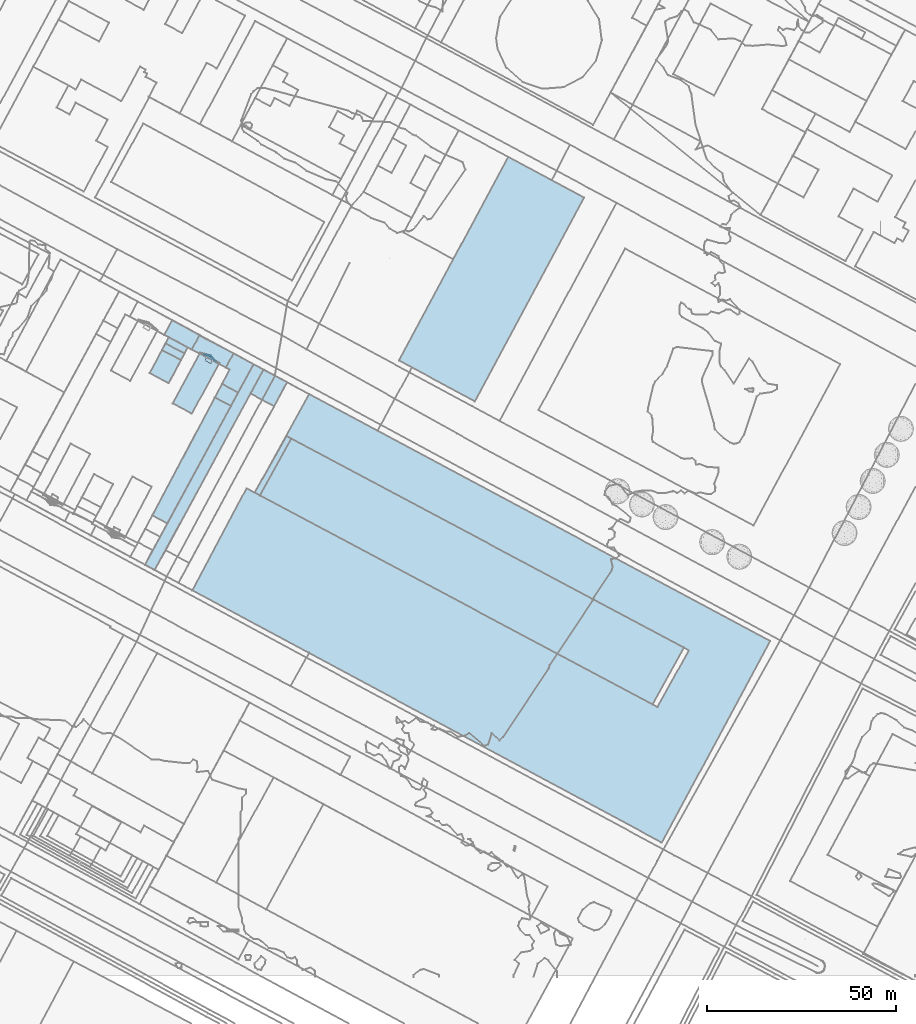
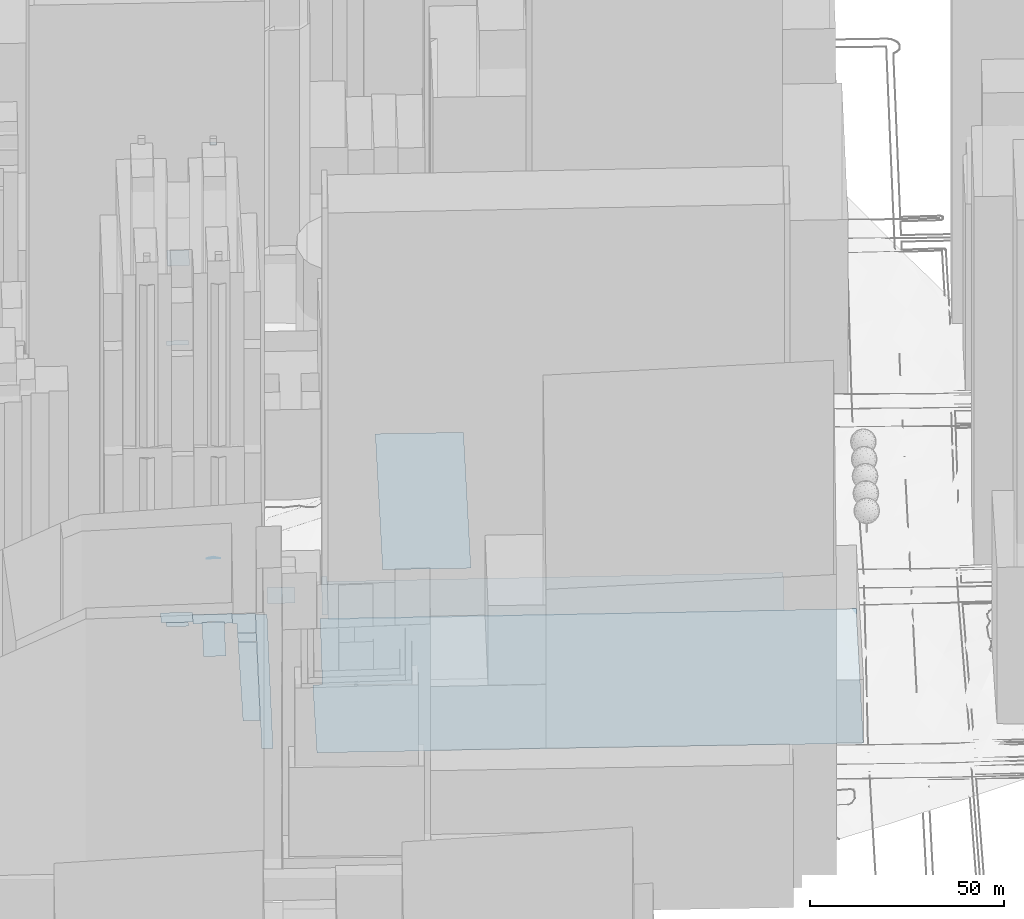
# Not in any storey, part 5 of 80: 17 footings.
"""IFC4 building model written with IfcOpenShell, lengths in metres."""

from ifc_helpers import new_model, si_unit, frame, origin_with_axes, place, context, subcontext, project, spatial, polygons, element, save


model = new_model("IFC4")

# Units and contexts
model_context = context("Model", 3, precision=1e-05, world=origin_with_axes())
body_context = subcontext(model_context, "Body", "Model", "MODEL_VIEW")
ifc_project = project(units=[si_unit("AREAUNIT", "SQUARE_METRE"), si_unit("LENGTHUNIT", "METRE")], contexts=[model_context])

# Sites, building
site_1_placement = place(None, origin_with_axes())
site_1 = spatial("IfcSite", under=ifc_project, at=site_1_placement, Name="Topoexport Site")
site_2_placement = place(site_1_placement, origin_with_axes())
site_2 = spatial("IfcSite", under=site_1, at=site_2_placement, Name="TPX_BATIMENTS")
building_1_placement = place(site_2_placement, frame((145.8163168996, 126.9152581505, 39.4739662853), z_axis=(0.0, 0.0, 1.0), x_axis=(1.0, 0.0, 0.0)))
building_1 = spatial("IfcBuilding", under=site_2, at=building_1_placement, Name="Batiment 37", CompositionType="ELEMENT")

# Footing
footing_1_placement = place(None, frame((145.8163168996, 126.9152581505, 39.4739662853), z_axis=(0.0, 0.0, 1.0), x_axis=(1.0, 0.0, 0.0)))
element("IfcFooting", 1, at=footing_1_placement, inside=building_1, Name="Sol 0", context=body_context, shape_type="Tessellation", body=[
    polygons([(0.0, 0.0, 0.0), (103.867286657, -55.3249895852, 0.0), (112.1849689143, -40.3178861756, 0.0), (8.3262633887, 15.0070838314, 0.0)], [[[2, 1, 4]], [[4, 3, 2]]]),
])

# Building
building_2_placement = place(site_2_placement, frame((127.9503385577, 101.7942196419, 19.0609188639), z_axis=(0.0, 0.0, 1.0), x_axis=(1.0, 0.0, 0.0)))
building_2 = spatial("IfcBuilding", under=site_2, at=building_2_placement, Name="Batiment 38", CompositionType="ELEMENT")

# Footing
footing_2_placement = place(None, frame((127.9503385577, 101.7942196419, 19.0609188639), z_axis=(0.0, 0.0, 1.0), x_axis=(1.0, 0.0, 0.0)))
element("IfcFooting", 2, at=footing_2_placement, inside=building_2, Name="Sol 0", context=body_context, shape_type="Tessellation", body=[
    polygons([(0.0, 0.0, 0.0), (124.2012870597, -66.7460663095, 0.0), (152.8564476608, -13.4215566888, 0.0), (30.9179421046, 51.8848183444, 0.0), (16.4988125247, 25.8156958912, 0.0), (14.3495804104, 26.9786628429, 0.0)], [[[2, 1, 6]], [[4, 3, 2]], [[2, 6, 5]], [[5, 4, 2]]]),
])

# Building
building_3_placement = place(site_2_placement, frame((182.6039745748, 162.5591833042, 20.6927717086), z_axis=(0.0, 0.0, 1.0), x_axis=(1.0, 0.0, 0.0)))
building_3 = spatial("IfcBuilding", under=site_2, at=building_3_placement, Name="Batiment 42", CompositionType="ELEMENT")

# Footing
footing_3_placement = place(None, frame((182.6039745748, 162.5591833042, 20.6927717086), z_axis=(0.0, 0.0, 1.0), x_axis=(1.0, 0.0, 0.0)))
element("IfcFooting", 3, at=footing_3_placement, inside=building_3, Name="Sol 0", context=body_context, shape_type="Tessellation", body=[
    polygons([(0.0, 0.0, 0.0), (20.0810169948, -10.7688576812, 0.0), (48.9829273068, 43.1023540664, 0.0), (28.9020091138, 53.8711326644, 0.0)], [[[2, 1, 4]], [[4, 3, 2]]]),
])

# Building
building_4_placement = place(site_2_placement, frame((144.4491510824, 127.6099155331, 41.0408020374), z_axis=(0.0, 0.0, 1.0), x_axis=(1.0, 0.0, 0.0)))
building_4 = spatial("IfcBuilding", under=site_2, at=building_4_placement, Name="Batiment 44", CompositionType="ELEMENT")

# Footing
footing_4_placement = place(None, frame((144.4491510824, 127.6099155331, 41.0408020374), z_axis=(0.0, 0.0, 1.0), x_axis=(1.0, 0.0, 0.0)))
element("IfcFooting", 4, at=footing_4_placement, inside=building_4, Name="Sol 0", context=body_context, shape_type="Tessellation", body=[
    polygons([(0.0, 0.0, 0.0), (1.3671658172, -0.6946573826, 0.0), (9.6934292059, 14.3124264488, 0.0), (8.4192388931, 14.9970605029, 0.0)], [[[2, 1, 4]], [[4, 3, 2]]]),
])

# Building
building_5_placement = place(site_2_placement, frame((117.3791727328, 121.6110559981, 20.8267398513), z_axis=(0.0, 0.0, 1.0), x_axis=(1.0, 0.0, 0.0)))
building_5 = spatial("IfcBuilding", under=site_2, at=building_5_placement, Name="Batiment 45", CompositionType="ELEMENT")

# Footing
footing_5_placement = place(None, frame((117.3791727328, 121.6110559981, 20.8267398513), z_axis=(0.0, 0.0, 1.0), x_axis=(1.0, 0.0, 0.0)))
element("IfcFooting", 5, at=footing_5_placement, inside=building_5, Name="Sol 0", context=body_context, shape_type="Tessellation", body=[
    polygons([(0.0, 0.0, 0.0), (3.9330714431, -2.1192496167, 0.0), (20.7848229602, 28.9185921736, 0.0), (16.537532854, 31.2007155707, 0.0)], [[[2, 1, 4]], [[4, 3, 2]]]),
])

# Building
building_6_placement = place(site_2_placement, frame((115.4207049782, 108.532058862, 20.6954997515), z_axis=(0.0, 0.0, 1.0), x_axis=(1.0, 0.0, 0.0)))
building_6 = spatial("IfcBuilding", under=site_2, at=building_6_placement, Name="Batiment 46", CompositionType="ELEMENT")

# Footing
footing_6_placement = place(None, frame((115.4207049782, 108.532058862, 20.6954997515), z_axis=(0.0, 0.0, 1.0), x_axis=(1.0, 0.0, 0.0)))
element("IfcFooting", 6, at=footing_6_placement, inside=building_6, Name="Sol 0", context=body_context, shape_type="Tessellation", body=[
    polygons([(0.0, 0.0, 0.0), (2.5572123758, -1.4024849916, 0.0), (31.3771339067, 51.6014424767, 0.0), (28.7687753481, 53.0477319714, 0.0)], [[[2, 1, 4]], [[4, 3, 2]]]),
])

# Building
building_7_placement = place(site_2_placement, frame((116.6721914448, 159.2172708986, 141.4782063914), z_axis=(0.0, 0.0, 1.0), x_axis=(1.0, 0.0, 0.0)))
building_7 = spatial("IfcBuilding", under=site_2, at=building_7_placement, Name="Batiment 56", CompositionType="ELEMENT")

# Footing
footing_7_placement = place(None, frame((116.6721914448, 159.2172708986, 141.4782063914), z_axis=(0.0, 0.0, 1.0), x_axis=(1.0, 0.0, 0.0)))
element("IfcFooting", 7, at=footing_7_placement, inside=building_7, Name="Sol 0", context=body_context, shape_type="Tessellation", body=[
    polygons([(0.0, 0.0, 0.0), (5.0281825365, -2.6505379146, 0.0), (8.2745883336, 3.4712109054, 0.0), (3.2380972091, 6.1105477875, 0.0)], [[[2, 1, 4]], [[4, 3, 2]]]),
])

# Building
building_8_placement = place(site_2_placement, frame((119.9102886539, 165.3278186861, 111.6038647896), z_axis=(0.0, 0.0, 1.0), x_axis=(1.0, 0.0, 0.0)))
building_8 = spatial("IfcBuilding", under=site_2, at=building_8_placement, Name="Batiment 57", CompositionType="ELEMENT")

# Footing
footing_8_placement = place(None, frame((119.9102886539, 165.3278186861, 111.6038647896), z_axis=(0.0, 0.0, 1.0), x_axis=(1.0, 0.0, 0.0)))
element("IfcFooting", 8, at=footing_8_placement, inside=building_8, Name="Sol 0", context=body_context, shape_type="Tessellation", body=[
    polygons([(0.0, 0.0, 0.0), (5.0364911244, -2.6393368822, 0.0), (5.9698792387, -0.874337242, 0.0), (0.9333889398, 1.7649989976, 0.0)], [[[2, 1, 4]], [[4, 3, 2]]]),
])

# Building
building_9_placement = place(site_2_placement, frame((120.8436775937, 167.0928176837, 21.6386341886), z_axis=(0.0, 0.0, 1.0), x_axis=(1.0, 0.0, 0.0)))
building_9 = spatial("IfcBuilding", under=site_2, at=building_9_placement, Name="Batiment 58", CompositionType="ELEMENT")

# Footing
footing_9_placement = place(None, frame((120.8436775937, 167.0928176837, 21.6386341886), z_axis=(0.0, 0.0, 1.0), x_axis=(1.0, 0.0, 0.0)))
element("IfcFooting", 9, at=footing_9_placement, inside=building_9, Name="Sol 0", context=body_context, shape_type="Tessellation", body=[
    polygons([(0.0, 0.0, 0.0), (5.0364902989, -2.6393362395, 0.0), (5.8792260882, -1.0641279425, 0.0), (0.8757243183, 1.6422044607, 0.0)], [[[2, 1, 4]], [[4, 3, 2]]]),
])

# Building
building_10_placement = place(site_2_placement, frame((120.5302679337, 169.3651384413, 21.6421787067), z_axis=(0.0, 0.0, 1.0), x_axis=(1.0, 0.0, 0.0)))
building_10 = spatial("IfcBuilding", under=site_2, at=building_10_placement, Name="Batiment 59", CompositionType="ELEMENT")

# Footing
footing_10_placement = place(None, frame((120.5302679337, 169.3651384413, 21.6421787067), z_axis=(0.0, 0.0, 1.0), x_axis=(1.0, 0.0, 0.0)))
element("IfcFooting", 10, at=footing_10_placement, inside=building_10, Name="Sol 0", context=body_context, shape_type="Tessellation", body=[
    polygons([(0.0, 0.0, 0.0), (7.2712718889, -3.9012342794, 0.0), (9.3368747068, -0.0469587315, 0.0), (2.1162476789, 3.8548618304, 0.0)], [[[2, 1, 4]], [[4, 3, 2]]]),
])

# Building
building_11_placement = place(site_2_placement, frame((127.8015398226, 165.4639041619, 21.0444509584), z_axis=(0.0, 0.0, 1.0), x_axis=(1.0, 0.0, 0.0)))
building_11 = spatial("IfcBuilding", under=site_2, at=building_11_placement, Name="Batiment 60", CompositionType="ELEMENT")

# Footing
footing_11_placement = place(None, frame((127.8015398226, 165.4639041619, 21.0444509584), z_axis=(0.0, 0.0, 1.0), x_axis=(1.0, 0.0, 0.0)))
element("IfcFooting", 11, at=footing_11_placement, inside=building_11, Name="Sol 0", context=body_context, shape_type="Tessellation", body=[
    polygons([(0.0, 0.0, 0.0), (2.0724819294, -1.0972490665, 0.0), (2.2459900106, -0.7732678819, 0.0), (5.12513906, -1.5502808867, 0.0), (7.1770165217, -3.7801977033, 0.0), (9.0200620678, -4.746883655, 0.0), (11.0616303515, -1.0039073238, 0.0), (2.0078098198, 3.7425815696, 0.0)], [[[2, 1, 8]], [[6, 5, 4]], [[8, 7, 6]], [[3, 2, 8]], [[8, 6, 4]], [[4, 3, 8]]]),
])

# Building
building_12_placement = place(site_2_placement, frame((130.8715359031, 164.2450175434, 41.2941403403), z_axis=(0.0, 0.0, 1.0), x_axis=(1.0, 0.0, 0.0)))
building_12 = spatial("IfcBuilding", under=site_2, at=building_12_placement, Name="Batiment 61", CompositionType="ELEMENT")

# Footing
footing_12_placement = place(None, frame((130.8715359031, 164.2450175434, 41.2941403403), z_axis=(0.0, 0.0, 1.0), x_axis=(1.0, 0.0, 0.0)))
element("IfcFooting", 12, at=footing_12_placement, inside=building_12, Name="Sol 0", context=body_context, shape_type="Tessellation", body=[
    polygons([(0.0, 0.0, 0.0), (0.9598263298, -0.5106541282, 0.0), (3.4234050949, -1.8476075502, 0.0), (2.0551429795, -0.3313942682, 0.0)], [[[2, 1, 4]], [[4, 3, 2]]]),
])

# Building
building_13_placement = place(site_2_placement, frame((131.2446046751, 162.6506276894, 172.3367242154), z_axis=(0.0, 0.0, 1.0), x_axis=(1.0, 0.0, 0.0)))
building_13 = spatial("IfcBuilding", under=site_2, at=building_13_placement, Name="Batiment 62", CompositionType="ELEMENT")

# Footing
footing_13_placement = place(None, frame((131.2446046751, 162.6506276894, 172.3367242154), z_axis=(0.0, 0.0, 1.0), x_axis=(1.0, 0.0, 0.0)))
element("IfcFooting", 13, at=footing_13_placement, inside=building_13, Name="Sol 0", context=body_context, shape_type="Tessellation", body=[
    polygons([(0.0, 0.0, 0.0), (1.5290734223, -0.8260055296, 0.0), (2.1158308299, 0.2577303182, 0.0), (0.5867575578, 1.0837357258, 0.0)], [[[2, 1, 4]], [[4, 3, 2]]]),
])

# Building
building_14_placement = place(site_2_placement, frame((122.7499311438, 151.2387428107, 21.2252541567), z_axis=(0.0, 0.0, 1.0), x_axis=(1.0, 0.0, 0.0)))
building_14 = spatial("IfcBuilding", under=site_2, at=building_14_placement, Name="Batiment 63", CompositionType="ELEMENT")

# Footing
footing_14_placement = place(None, frame((122.7499311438, 151.2387428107, 21.2252541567), z_axis=(0.0, 0.0, 1.0), x_axis=(1.0, 0.0, 0.0)))
element("IfcFooting", 14, at=footing_14_placement, inside=building_14, Name="Sol 0", context=body_context, shape_type="Tessellation", body=[
    polygons([(0.0, 0.0, 0.0), (5.0798643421, -2.738751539, 0.0), (12.3774568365, 10.713146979, 0.0), (7.2975986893, 13.4518934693, 0.0)], [[[2, 1, 4]], [[4, 3, 2]]]),
])

# Building
building_15_placement = place(site_2_placement, frame((133.9167055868, 152.8117715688, 20.9084652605), z_axis=(0.0, 0.0, 1.0), x_axis=(1.0, 0.0, 0.0)))
building_15 = spatial("IfcBuilding", under=site_2, at=building_15_placement, Name="Batiment 64", CompositionType="ELEMENT")

# Footing
footing_15_placement = place(None, frame((133.9167055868, 152.8117715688, 20.9084652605), z_axis=(0.0, 0.0, 1.0), x_axis=(1.0, 0.0, 0.0)))
element("IfcFooting", 15, at=footing_15_placement, inside=building_15, Name="Sol 0", context=body_context, shape_type="Tessellation", body=[
    polygons([(0.0, 0.0, 0.0), (4.2472901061, -2.2821233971, 0.0), (6.1475666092, 1.270473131, 0.0), (1.8917085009, 3.563598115, 0.0)], [[[2, 1, 4]], [[4, 3, 2]]]),
])

# Building
building_16_placement = place(site_2_placement, frame((135.8084140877, 156.3753696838, 20.9336598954), z_axis=(0.0, 0.0, 1.0), x_axis=(1.0, 0.0, 0.0)))
building_16 = spatial("IfcBuilding", under=site_2, at=building_16_placement, Name="Batiment 65", CompositionType="ELEMENT")

# Footing
footing_16_placement = place(None, frame((135.8084140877, 156.3753696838, 20.9336598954), z_axis=(0.0, 0.0, 1.0), x_axis=(1.0, 0.0, 0.0)))
element("IfcFooting", 16, at=footing_16_placement, inside=building_16, Name="Sol 0", context=body_context, shape_type="Tessellation", body=[
    polygons([(0.0, 0.0, 0.0), (4.2558581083, -2.293124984, 0.0), (8.3810662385, 5.2044211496, 0.0), (3.0547560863, 8.0846271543, 0.0), (1.0131878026, 4.3416508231, 0.0), (2.0239153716, 3.8093843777, 0.0)], [[[2, 1, 6]], [[4, 3, 2]], [[6, 5, 4]], [[4, 2, 6]]]),
])

# Building
building_17_placement = place(site_2_placement, frame((143.3426323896, 153.8205779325, 29.1035144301), z_axis=(0.0, 0.0, 1.0), x_axis=(1.0, 0.0, 0.0)))
building_17 = spatial("IfcBuilding", under=site_2, at=building_17_placement, Name="Batiment 66", CompositionType="ELEMENT")

# Footing
footing_17_placement = place(None, frame((143.3426323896, 153.8205779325, 29.1035144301), z_axis=(0.0, 0.0, 1.0), x_axis=(1.0, 0.0, 0.0)))
element("IfcFooting", 17, at=footing_17_placement, inside=building_17, Name="Sol 0", context=body_context, shape_type="Tessellation", body=[
    polygons([(0.0, 0.0, 0.0), (6.235119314, -3.3581409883, 0.0), (9.6477332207, 2.9875971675, 0.0), (3.4552064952, 6.3129234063, 0.0)], [[[2, 1, 4]], [[4, 3, 2]]]),
])

save(model, "model.ifc")
